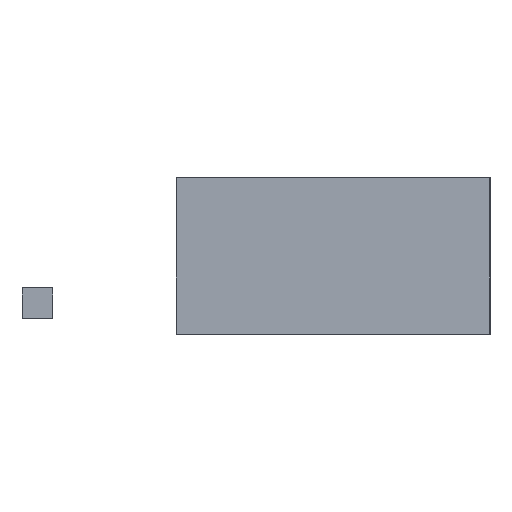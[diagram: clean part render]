
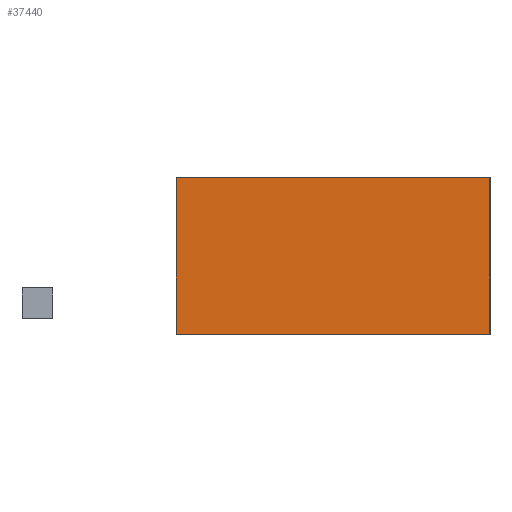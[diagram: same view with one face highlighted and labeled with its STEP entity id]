
A CAD part, top view. The second image highlights one B-rep face of the part: STEP entity #37440.
In plain terms, the highlighted planar face has unit normal (0, 0, 1).
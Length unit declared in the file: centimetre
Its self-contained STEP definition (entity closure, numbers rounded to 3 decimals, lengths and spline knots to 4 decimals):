
#6770=VERTEX_POINT('',#296911);
#6771=VERTEX_POINT('',#296912);
#6774=VERTEX_POINT('',#296920);
#6776=VERTEX_POINT('',#296926);
#10150=VECTOR('',#49525,1.);
#10154=VECTOR('',#49530,1.);
#10157=VECTOR('',#49534,1.);
#10160=VECTOR('',#49538,1.);
#13533=LINE('',#296910,#10150);
#13537=LINE('',#296919,#10154);
#13540=LINE('',#296925,#10157);
#13543=LINE('',#296931,#10160);
#18981=EDGE_CURVE('',#6770,#6771,#13533,.T.);
#18985=EDGE_CURVE('',#6771,#6774,#13537,.T.);
#18988=EDGE_CURVE('',#6774,#6776,#13540,.T.);
#18991=EDGE_CURVE('',#6776,#6770,#13543,.T.);
#29881=ORIENTED_EDGE('',*,*,#18981,.F.);
#29882=ORIENTED_EDGE('',*,*,#18991,.F.);
#29883=ORIENTED_EDGE('',*,*,#18988,.F.);
#29884=ORIENTED_EDGE('',*,*,#18985,.F.);
#32543=EDGE_LOOP('',(#29881,#29882,#29883,#29884));
#35199=FACE_BOUND('',#32543,.T.);
#37440=ADVANCED_FACE('',(#35199),#298216,.T.);
#40756=AXIS2_PLACEMENT_3D('',#296933,#49540,$);
#49525=DIRECTION('',(0.,1.,0.));
#49530=DIRECTION('',(1.,0.,0.));
#49534=DIRECTION('',(0.,-1.,0.));
#49538=DIRECTION('',(-1.,0.,0.));
#49540=DIRECTION('',(0.,0.,1.));
#296910=CARTESIAN_POINT('',(25.,-2.54,5.08));
#296911=CARTESIAN_POINT('',(25.,-2.54,5.08));
#296912=CARTESIAN_POINT('',(25.,22.86,5.08));
#296919=CARTESIAN_POINT('',(25.,22.86,5.08));
#296920=CARTESIAN_POINT('',(75.8,22.86,5.08));
#296925=CARTESIAN_POINT('',(75.8,22.86,5.08));
#296926=CARTESIAN_POINT('',(75.8,-2.54,5.08));
#296931=CARTESIAN_POINT('',(75.8,-2.54,5.08));
#296933=CARTESIAN_POINT('',(50.4,10.16,5.08));
#298216=PLANE('',#40756);
